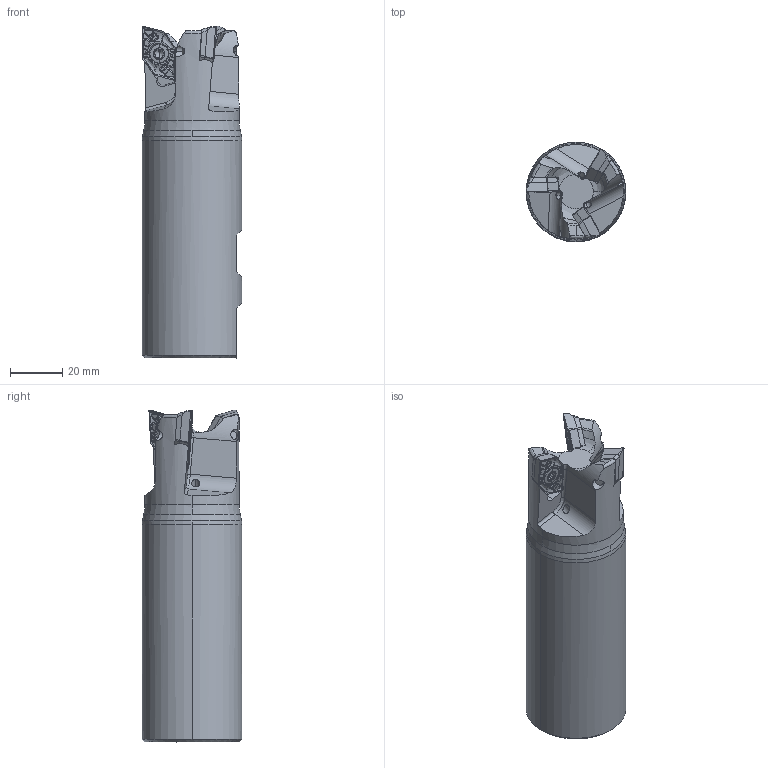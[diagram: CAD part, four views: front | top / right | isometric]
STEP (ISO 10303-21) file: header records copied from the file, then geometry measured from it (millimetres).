
FILE_DESCRIPTION (( 'STEP AP203' ), '1' );
FILE_NAME ('01-0661.STEP', '2023-01-10T16:09:38', ( '' ), ( '' ), 'SwSTEP 2.0', 'SolidWorks 2021', '' );
FILE_SCHEMA (( 'CONFIG_CONTROL_DESIGN' ));
Length unit declared in the file: inch
Products named in the file (8): ge8AC87100ekoc; ge8AC87100ekoc_3; 01-0661; ge8AC87100ekoc_2; ge8AC87100ekoc_5; ge8AC87100ekoc_6; ge8AC87100ekoc_4; ge8AC87100ekoc_7
Assembly tree (7 placements, depth 2):
  01-0661
    ge8AC87100ekoc_4
    ge8AC87100ekoc_5
    ge8AC87100ekoc_2
    ge8AC87100ekoc_3
    ge8AC87100ekoc_6
    ge8AC87100ekoc_7
    ge8AC87100ekoc
Bounding box: 38.1 x 38.1 x 127 mm (x, y, z)
Volume: 117390.2 mm3; surface area: 21938.5 mm2
Topology: 7 solids, 7 shells, 1339 faces, 3355 edges, 1954 vertices
Faces by surface type: bspline 815, cylinder 266, plane 175, cone 77, torus 6
Entity records: 65540 total; most frequent: CARTESIAN_POINT 39584, ORIENTED_EDGE 6548, DIRECTION 3467, EDGE_CURVE 3274, VERTEX_POINT 1954, B_SPLINE_CURVE_WITH_KNOTS 1697, AXIS2_PLACEMENT_3D 1458, EDGE_LOOP 1362
